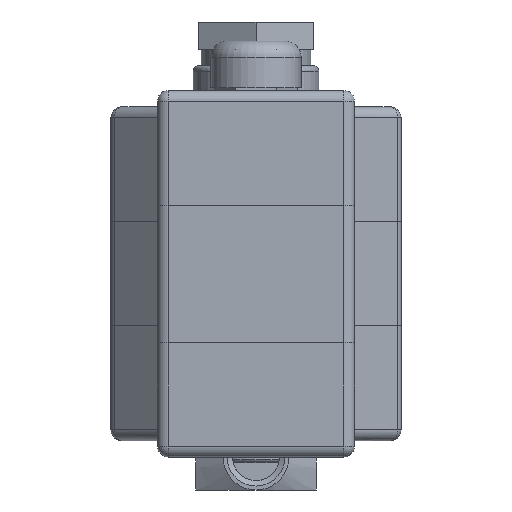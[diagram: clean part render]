
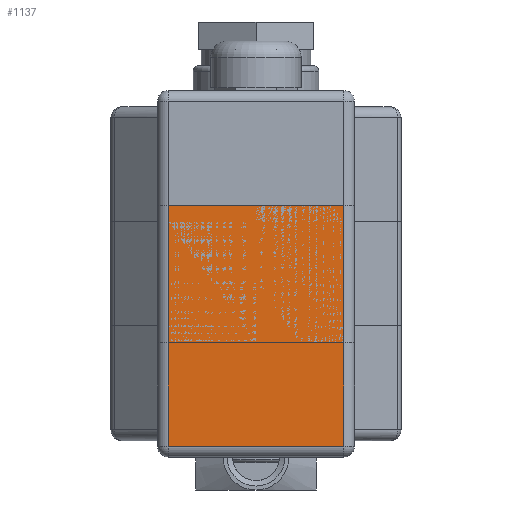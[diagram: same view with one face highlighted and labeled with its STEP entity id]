
A CAD part, front view. The second image highlights one B-rep face of the part: STEP entity #1137.
In plain terms, the highlighted planar face has unit normal (0, -1, 0).
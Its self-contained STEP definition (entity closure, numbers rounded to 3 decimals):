
#1137 = ADVANCED_FACE( '', ( #1790 ), #1791, .F. );
#1790 = FACE_OUTER_BOUND( '', #7005, .T. );
#1791 = PLANE( '', #7006 );
#7005 = EDGE_LOOP( '', ( #8759, #8760, #8761, #8762 ) );
#7006 = AXIS2_PLACEMENT_3D( '', #8763, #8764, #8765 );
#8759 = ORIENTED_EDGE( '', *, *, #9357, .T. );
#8760 = ORIENTED_EDGE( '', *, *, #9331, .T. );
#8761 = ORIENTED_EDGE( '', *, *, #9325, .T. );
#8762 = ORIENTED_EDGE( '', *, *, #9353, .T. );
#8763 = CARTESIAN_POINT( '', ( -18., -26., 48. ) );
#8764 = DIRECTION( '', ( 0., 1., 0. ) );
#8765 = DIRECTION( '', ( -1., 0., 0. ) );
#9325 = EDGE_CURVE( '', #10115, #10129, #10131, .F. );
#9331 = EDGE_CURVE( '', #10135, #10115, #10139, .T. );
#9353 = EDGE_CURVE( '', #10129, #10168, #10170, .F. );
#9357 = EDGE_CURVE( '', #10168, #10135, #10175, .T. );
#10115 = VERTEX_POINT( '', #11553 );
#10129 = VERTEX_POINT( '', #11571 );
#10131 = LINE( '', #11573, #11574 );
#10135 = VERTEX_POINT( '', #11581 );
#10139 = LINE( '', #11586, #11587 );
#10168 = VERTEX_POINT( '', #11626 );
#10170 = LINE( '', #11628, #11629 );
#10175 = LINE( '', #11636, #11637 );
#11553 = CARTESIAN_POINT( '', ( 16., -26., 2. ) );
#11571 = CARTESIAN_POINT( '', ( 16., -26., 46. ) );
#11573 = CARTESIAN_POINT( '', ( 16., -26., 48. ) );
#11574 = VECTOR( '', #12494, 1000. );
#11581 = CARTESIAN_POINT( '', ( -16., -26., 2. ) );
#11586 = CARTESIAN_POINT( '', ( -18., -26., 2. ) );
#11587 = VECTOR( '', #12502, 1000. );
#11626 = CARTESIAN_POINT( '', ( -16., -26., 46. ) );
#11628 = CARTESIAN_POINT( '', ( -18., -26., 46. ) );
#11629 = VECTOR( '', #12546, 1000. );
#11636 = CARTESIAN_POINT( '', ( -16., -26., 48. ) );
#11637 = VECTOR( '', #12552, 1000. );
#12494 = DIRECTION( '', ( 0., 0., -1. ) );
#12502 = DIRECTION( '', ( 1., 0., 0. ) );
#12546 = DIRECTION( '', ( 1., 0., 0. ) );
#12552 = DIRECTION( '', ( 0., 0., -1. ) );
